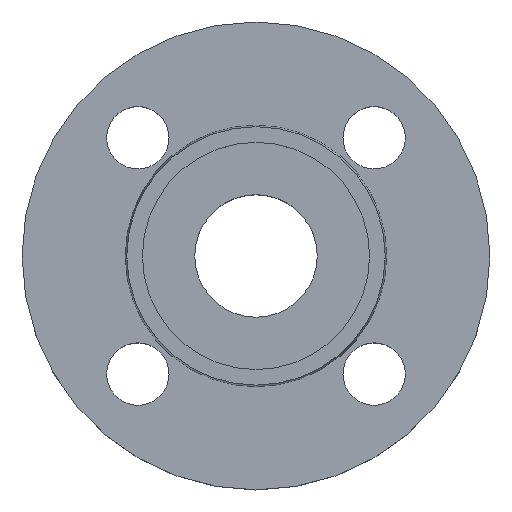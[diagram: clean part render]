
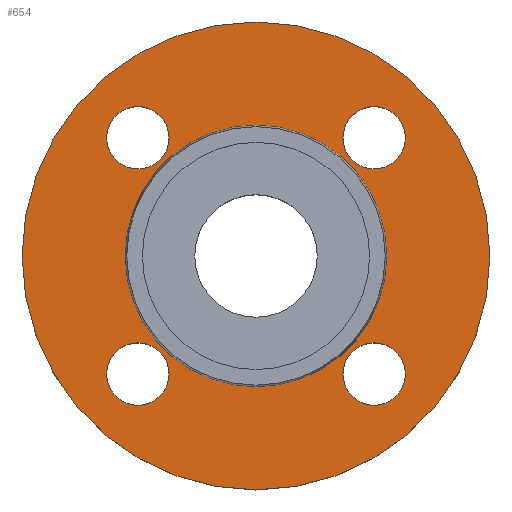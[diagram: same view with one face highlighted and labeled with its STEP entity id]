
A CAD part, top view. The second image highlights one B-rep face of the part: STEP entity #654.
In plain terms, the highlighted planar face has unit normal (0, 0, 1).
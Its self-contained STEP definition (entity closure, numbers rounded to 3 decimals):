
#11 = DIRECTION ( 'NONE',  ( -1., 0., 0. ) ) ;
#12 = DIRECTION ( 'NONE',  ( 1., 0., 0. ) ) ;
#13 = AXIS2_PLACEMENT_3D ( 'NONE', #725, #703, #12 ) ;
#14 = DIRECTION ( 'NONE',  ( 0., 0., -1. ) ) ;
#16 = CARTESIAN_POINT ( 'NONE',  ( 0., 0., -2. ) ) ;
#40 = CIRCLE ( 'NONE', #206, 7. ) ;
#49 = CARTESIAN_POINT ( 'NONE',  ( -52.5, 0., -2. ) ) ;
#57 = CARTESIAN_POINT ( 'NONE',  ( 52.5, 0., -2. ) ) ;
#66 = AXIS2_PLACEMENT_3D ( 'NONE', #740, #741, #742 ) ;
#73 = DIRECTION ( 'NONE',  ( 1., 0., 0. ) ) ;
#74 = DIRECTION ( 'NONE',  ( 0., 0., -1. ) ) ;
#75 = CARTESIAN_POINT ( 'NONE',  ( 26.517, -26.517, -2. ) ) ;
#76 = CARTESIAN_POINT ( 'NONE',  ( 19.517, 26.517, -2. ) ) ;
#91 = DIRECTION ( 'NONE',  ( -1., 0., 0. ) ) ;
#93 = DIRECTION ( 'NONE',  ( 0., 0., -1. ) ) ;
#94 = CARTESIAN_POINT ( 'NONE',  ( 0., 0., -2. ) ) ;
#96 = AXIS2_PLACEMENT_3D ( 'NONE', #94, #93, #91 ) ;
#97 = AXIS2_PLACEMENT_3D ( 'NONE', #445, #452, #801 ) ;
#98 = DIRECTION ( 'NONE',  ( 1., 0., 0. ) ) ;
#99 = DIRECTION ( 'NONE',  ( 0., 0., 1. ) ) ;
#101 = CARTESIAN_POINT ( 'NONE',  ( 29.353, 0., -2. ) ) ;
#102 = DIRECTION ( 'NONE',  ( 0., 0., -1. ) ) ;
#103 = PLANE ( 'NONE',  #786 ) ;
#105 = FACE_OUTER_BOUND ( 'NONE', #661, .T. ) ;
#106 = FACE_BOUND ( 'NONE', #663, .T. ) ;
#107 = EDGE_CURVE ( 'NONE', #594, #669, #376, .T. ) ;
#108 = FACE_BOUND ( 'NONE', #687, .T. ) ;
#109 = FACE_BOUND ( 'NONE', #684, .T. ) ;
#110 = FACE_BOUND ( 'NONE', #458, .T. ) ;
#111 = FACE_BOUND ( 'NONE', #660, .T. ) ;
#122 = DIRECTION ( 'NONE',  ( 1., 0., 0. ) ) ;
#141 = CARTESIAN_POINT ( 'NONE',  ( -33.517, -26.517, -2. ) ) ;
#144 = DIRECTION ( 'NONE',  ( 1., 0., 0. ) ) ;
#145 = CARTESIAN_POINT ( 'NONE',  ( -33.517, 26.517, -2. ) ) ;
#146 = CARTESIAN_POINT ( 'NONE',  ( -26.517, -26.517, -2. ) ) ;
#149 = CARTESIAN_POINT ( 'NONE',  ( 26.517, 26.517, -2. ) ) ;
#153 = CIRCLE ( 'NONE', #787, 7. ) ;
#154 = CARTESIAN_POINT ( 'NONE',  ( 0., 0., -2. ) ) ;
#155 = DIRECTION ( 'NONE',  ( 0., 0., -1. ) ) ;
#157 = CARTESIAN_POINT ( 'NONE',  ( -26.517, 26.517, -2. ) ) ;
#163 = DIRECTION ( 'NONE',  ( 0., 0., -1. ) ) ;
#165 = DIRECTION ( 'NONE',  ( 1., 0., 0. ) ) ;
#181 = CARTESIAN_POINT ( 'NONE',  ( 33.517, 26.517, -2. ) ) ;
#184 = EDGE_CURVE ( 'NONE', #608, #568, #406, .T. ) ;
#189 = EDGE_CURVE ( 'NONE', #669, #594, #223, .T. ) ;
#199 = AXIS2_PLACEMENT_3D ( 'NONE', #149, #155, #789 ) ;
#206 = AXIS2_PLACEMENT_3D ( 'NONE', #75, #74, #73 ) ;
#207 = CIRCLE ( 'NONE', #280, 52.5 ) ;
#209 = CARTESIAN_POINT ( 'NONE',  ( -19.517, 26.517, -2. ) ) ;
#210 = EDGE_CURVE ( 'NONE', #622, #471, #403, .T. ) ;
#214 = CARTESIAN_POINT ( 'NONE',  ( 19.517, -26.517, -2. ) ) ;
#223 = CIRCLE ( 'NONE', #199, 7. ) ;
#230 = DIRECTION ( 'NONE',  ( 0., 0., -1. ) ) ;
#234 = DIRECTION ( 'NONE',  ( 0., 0., -1. ) ) ;
#261 = CARTESIAN_POINT ( 'NONE',  ( -29.353, 0., -2. ) ) ;
#265 = CIRCLE ( 'NONE', #383, 7. ) ;
#274 = AXIS2_PLACEMENT_3D ( 'NONE', #782, #102, #122 ) ;
#280 = AXIS2_PLACEMENT_3D ( 'NONE', #154, #234, #783 ) ;
#286 = CIRCLE ( 'NONE', #96, 29.353 ) ;
#287 = CIRCLE ( 'NONE', #345, 52.5 ) ;
#345 = AXIS2_PLACEMENT_3D ( 'NONE', #16, #14, #11 ) ;
#368 = EDGE_CURVE ( 'NONE', #471, #622, #265, .T. ) ;
#376 = CIRCLE ( 'NONE', #66, 7. ) ;
#383 = AXIS2_PLACEMENT_3D ( 'NONE', #411, #412, #413 ) ;
#386 = CIRCLE ( 'NONE', #97, 29.353 ) ;
#403 = CIRCLE ( 'NONE', #494, 7. ) ;
#406 = CIRCLE ( 'NONE', #274, 7. ) ;
#411 = CARTESIAN_POINT ( 'NONE',  ( -26.517, 26.517, -2. ) ) ;
#412 = DIRECTION ( 'NONE',  ( 0., 0., -1. ) ) ;
#413 = DIRECTION ( 'NONE',  ( 1., 0., 0. ) ) ;
#441 = CARTESIAN_POINT ( 'NONE',  ( 29.353, 0., -2. ) ) ;
#445 = CARTESIAN_POINT ( 'NONE',  ( 0., 0., -2. ) ) ;
#448 = CARTESIAN_POINT ( 'NONE',  ( -19.517, -26.517, -2. ) ) ;
#452 = DIRECTION ( 'NONE',  ( 0., 0., -1. ) ) ;
#458 = EDGE_LOOP ( 'NONE', ( #556, #558 ) ) ;
#462 = VERTEX_POINT ( 'NONE', #448 ) ;
#464 = VERTEX_POINT ( 'NONE', #141 ) ;
#471 = VERTEX_POINT ( 'NONE', #145 ) ;
#491 = EDGE_CURVE ( 'NONE', #696, #692, #207, .T. ) ;
#494 = AXIS2_PLACEMENT_3D ( 'NONE', #157, #163, #165 ) ;
#535 = VERTEX_POINT ( 'NONE', #441 ) ;
#543 = EDGE_CURVE ( 'NONE', #464, #462, #153, .T. ) ;
#554 = ORIENTED_EDGE ( 'NONE', *, *, #184, .T. ) ;
#555 = ORIENTED_EDGE ( 'NONE', *, *, #672, .T. ) ;
#556 = ORIENTED_EDGE ( 'NONE', *, *, #794, .T. ) ;
#558 = ORIENTED_EDGE ( 'NONE', *, *, #543, .T. ) ;
#560 = ORIENTED_EDGE ( 'NONE', *, *, #210, .T. ) ;
#561 = ORIENTED_EDGE ( 'NONE', *, *, #368, .T. ) ;
#562 = ORIENTED_EDGE ( 'NONE', *, *, #107, .T. ) ;
#563 = ORIENTED_EDGE ( 'NONE', *, *, #189, .T. ) ;
#564 = ORIENTED_EDGE ( 'NONE', *, *, #598, .T. ) ;
#565 = ORIENTED_EDGE ( 'NONE', *, *, #662, .T. ) ;
#566 = ORIENTED_EDGE ( 'NONE', *, *, #770, .F. ) ;
#568 = VERTEX_POINT ( 'NONE', #214 ) ;
#594 = VERTEX_POINT ( 'NONE', #181 ) ;
#598 = EDGE_CURVE ( 'NONE', #623, #535, #386, .T. ) ;
#608 = VERTEX_POINT ( 'NONE', #784 ) ;
#622 = VERTEX_POINT ( 'NONE', #209 ) ;
#623 = VERTEX_POINT ( 'NONE', #261 ) ;
#654 = ADVANCED_FACE ( 'NONE', ( #111, #110, #109, #108, #106, #105 ), #103, .T. ) ;
#660 = EDGE_LOOP ( 'NONE', ( #554, #555 ) ) ;
#661 = EDGE_LOOP ( 'NONE', ( #566, #733 ) ) ;
#662 = EDGE_CURVE ( 'NONE', #535, #623, #286, .T. ) ;
#663 = EDGE_LOOP ( 'NONE', ( #564, #565 ) ) ;
#669 = VERTEX_POINT ( 'NONE', #76 ) ;
#672 = EDGE_CURVE ( 'NONE', #568, #608, #40, .T. ) ;
#684 = EDGE_LOOP ( 'NONE', ( #560, #561 ) ) ;
#687 = EDGE_LOOP ( 'NONE', ( #562, #563 ) ) ;
#692 = VERTEX_POINT ( 'NONE', #57 ) ;
#696 = VERTEX_POINT ( 'NONE', #49 ) ;
#703 = DIRECTION ( 'NONE',  ( 0., 0., -1. ) ) ;
#725 = CARTESIAN_POINT ( 'NONE',  ( -26.517, -26.517, -2. ) ) ;
#733 = ORIENTED_EDGE ( 'NONE', *, *, #491, .F. ) ;
#740 = CARTESIAN_POINT ( 'NONE',  ( 26.517, 26.517, -2. ) ) ;
#741 = DIRECTION ( 'NONE',  ( 0., 0., -1. ) ) ;
#742 = DIRECTION ( 'NONE',  ( 1., 0., 0. ) ) ;
#770 = EDGE_CURVE ( 'NONE', #692, #696, #287, .T. ) ;
#782 = CARTESIAN_POINT ( 'NONE',  ( 26.517, -26.517, -2. ) ) ;
#783 = DIRECTION ( 'NONE',  ( -1., 0., 0. ) ) ;
#784 = CARTESIAN_POINT ( 'NONE',  ( 33.517, -26.517, -2. ) ) ;
#786 = AXIS2_PLACEMENT_3D ( 'NONE', #101, #99, #98 ) ;
#787 = AXIS2_PLACEMENT_3D ( 'NONE', #146, #230, #144 ) ;
#789 = DIRECTION ( 'NONE',  ( 1., 0., 0. ) ) ;
#792 = CIRCLE ( 'NONE', #13, 7. ) ;
#794 = EDGE_CURVE ( 'NONE', #462, #464, #792, .T. ) ;
#801 = DIRECTION ( 'NONE',  ( -1., 0., 0. ) ) ;
